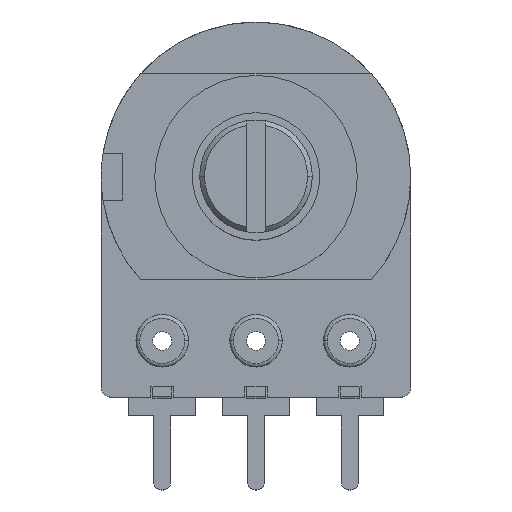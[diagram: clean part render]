
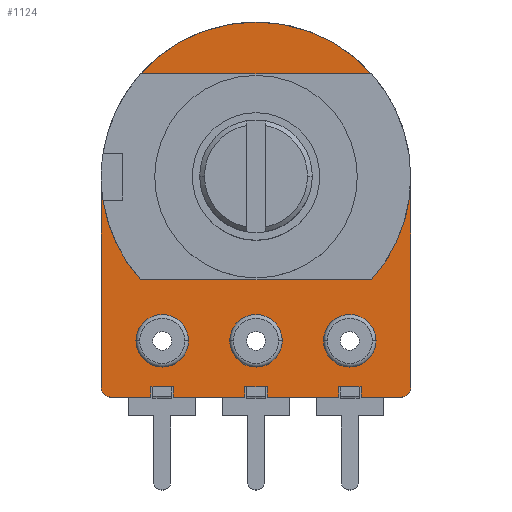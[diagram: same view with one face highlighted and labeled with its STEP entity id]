
A CAD part, top view. The second image highlights one B-rep face of the part: STEP entity #1124.
In plain terms, the highlighted planar face has unit normal (0, 0, 1).
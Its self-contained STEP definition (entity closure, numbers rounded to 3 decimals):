
#463=CARTESIAN_POINT('Axis2P3D Location',(7.75,-11.25,-2.1)) ;
#467=CARTESIAN_POINT('Vertex',(7.75,-11.75,-2.1)) ;
#469=CARTESIAN_POINT('Vertex',(8.25,-11.25,-2.1)) ;
#503=CARTESIAN_POINT('Line Origine',(8.25,-5.625,-2.1)) ;
#507=CARTESIAN_POINT('Vertex',(8.25,0.,-2.1)) ;
#545=CARTESIAN_POINT('Vertex',(-8.25,0.,-2.1)) ;
#548=CARTESIAN_POINT('Axis2P3D Location',(0.,0.,-2.1)) ;
#576=CARTESIAN_POINT('Vertex',(-8.25,-11.25,-2.1)) ;
#579=CARTESIAN_POINT('Line Origine',(-8.25,-5.625,-2.1)) ;
#596=CARTESIAN_POINT('Axis2P3D Location',(-5.,-8.75,-2.1)) ;
#600=CARTESIAN_POINT('Vertex',(-5.75,-8.75,-2.1)) ;
#602=CARTESIAN_POINT('Vertex',(-4.25,-8.75,-2.1)) ;
#641=CARTESIAN_POINT('Axis2P3D Location',(-5.,-8.75,-2.1)) ;
#658=CARTESIAN_POINT('Axis2P3D Location',(5.,-8.75,-2.1)) ;
#662=CARTESIAN_POINT('Vertex',(4.25,-8.75,-2.1)) ;
#664=CARTESIAN_POINT('Vertex',(5.75,-8.75,-2.1)) ;
#703=CARTESIAN_POINT('Axis2P3D Location',(5.,-8.75,-2.1)) ;
#733=CARTESIAN_POINT('Vertex',(0.75,-8.75,-2.1)) ;
#736=CARTESIAN_POINT('Axis2P3D Location',(0.,-8.75,-2.1)) ;
#740=CARTESIAN_POINT('Vertex',(-0.75,-8.75,-2.1)) ;
#760=CARTESIAN_POINT('Axis2P3D Location',(0.,-8.75,-2.1)) ;
#782=CARTESIAN_POINT('Axis2P3D Location',(-7.75,-11.25,-2.1)) ;
#786=CARTESIAN_POINT('Vertex',(-7.75,-11.75,-2.1)) ;
#819=CARTESIAN_POINT('Vertex',(-4.4,-11.75,-2.1)) ;
#833=CARTESIAN_POINT('Vertex',(-0.6,-11.75,-2.1)) ;
#836=CARTESIAN_POINT('Line Origine',(-2.5,-11.75,-2.1)) ;
#854=CARTESIAN_POINT('Vertex',(-5.6,-11.75,-2.1)) ;
#857=CARTESIAN_POINT('Line Origine',(-6.675,-11.75,-2.1)) ;
#887=CARTESIAN_POINT('Vertex',(4.4,-11.75,-2.1)) ;
#890=CARTESIAN_POINT('Line Origine',(2.5,-11.75,-2.1)) ;
#894=CARTESIAN_POINT('Vertex',(0.6,-11.75,-2.1)) ;
#915=CARTESIAN_POINT('Vertex',(5.6,-11.75,-2.1)) ;
#923=CARTESIAN_POINT('Line Origine',(6.675,-11.75,-2.1)) ;
#1030=CARTESIAN_POINT('Axis2P3D Location',(0.,0.,-2.1)) ;
#1035=CARTESIAN_POINT('Line Origine',(-0.6,-11.475,-2.1)) ;
#1039=CARTESIAN_POINT('Vertex',(-0.6,-11.2,-2.1)) ;
#1042=CARTESIAN_POINT('Line Origine',(0.,-11.2,-2.1)) ;
#1046=CARTESIAN_POINT('Vertex',(0.6,-11.2,-2.1)) ;
#1049=CARTESIAN_POINT('Line Origine',(0.6,-11.475,-2.1)) ;
#1054=CARTESIAN_POINT('Line Origine',(4.4,-11.475,-2.1)) ;
#1058=CARTESIAN_POINT('Vertex',(4.4,-11.2,-2.1)) ;
#1061=CARTESIAN_POINT('Line Origine',(5.,-11.2,-2.1)) ;
#1065=CARTESIAN_POINT('Vertex',(5.6,-11.2,-2.1)) ;
#1068=CARTESIAN_POINT('Line Origine',(5.6,-11.475,-2.1)) ;
#1073=CARTESIAN_POINT('Line Origine',(-5.6,-11.475,-2.1)) ;
#1077=CARTESIAN_POINT('Vertex',(-5.6,-11.2,-2.1)) ;
#1080=CARTESIAN_POINT('Line Origine',(-5.,-11.2,-2.1)) ;
#1084=CARTESIAN_POINT('Vertex',(-4.4,-11.2,-2.1)) ;
#1087=CARTESIAN_POINT('Line Origine',(-4.4,-11.475,-2.1)) ;
#464=DIRECTION('Axis2P3D Direction',(0.,0.,-1.)) ;
#504=DIRECTION('Vector Direction',(0.,1.,0.)) ;
#549=DIRECTION('Axis2P3D Direction',(0.,0.,-1.)) ;
#580=DIRECTION('Vector Direction',(0.,-1.,0.)) ;
#597=DIRECTION('Axis2P3D Direction',(0.,0.,-1.)) ;
#642=DIRECTION('Axis2P3D Direction',(0.,0.,-1.)) ;
#659=DIRECTION('Axis2P3D Direction',(0.,0.,-1.)) ;
#704=DIRECTION('Axis2P3D Direction',(0.,0.,-1.)) ;
#737=DIRECTION('Axis2P3D Direction',(0.,0.,-1.)) ;
#761=DIRECTION('Axis2P3D Direction',(0.,0.,-1.)) ;
#783=DIRECTION('Axis2P3D Direction',(0.,0.,-1.)) ;
#837=DIRECTION('Vector Direction',(1.,0.,0.)) ;
#858=DIRECTION('Vector Direction',(1.,0.,0.)) ;
#891=DIRECTION('Vector Direction',(1.,0.,0.)) ;
#924=DIRECTION('Vector Direction',(1.,0.,0.)) ;
#1031=DIRECTION('Axis2P3D Direction',(0.,0.,1.)) ;
#1032=DIRECTION('Axis2P3D XDirection',(1.,0.,0.)) ;
#1036=DIRECTION('Vector Direction',(0.,-1.,0.)) ;
#1043=DIRECTION('Vector Direction',(1.,0.,0.)) ;
#1050=DIRECTION('Vector Direction',(0.,-1.,0.)) ;
#1055=DIRECTION('Vector Direction',(0.,-1.,0.)) ;
#1062=DIRECTION('Vector Direction',(1.,0.,0.)) ;
#1069=DIRECTION('Vector Direction',(0.,-1.,0.)) ;
#1074=DIRECTION('Vector Direction',(0.,-1.,0.)) ;
#1081=DIRECTION('Vector Direction',(1.,0.,0.)) ;
#1088=DIRECTION('Vector Direction',(0.,-1.,0.)) ;
#465=AXIS2_PLACEMENT_3D('Circle Axis2P3D',#463,#464,$) ;
#550=AXIS2_PLACEMENT_3D('Circle Axis2P3D',#548,#549,$) ;
#598=AXIS2_PLACEMENT_3D('Circle Axis2P3D',#596,#597,$) ;
#643=AXIS2_PLACEMENT_3D('Circle Axis2P3D',#641,#642,$) ;
#660=AXIS2_PLACEMENT_3D('Circle Axis2P3D',#658,#659,$) ;
#705=AXIS2_PLACEMENT_3D('Circle Axis2P3D',#703,#704,$) ;
#738=AXIS2_PLACEMENT_3D('Circle Axis2P3D',#736,#737,$) ;
#762=AXIS2_PLACEMENT_3D('Circle Axis2P3D',#760,#761,$) ;
#784=AXIS2_PLACEMENT_3D('Circle Axis2P3D',#782,#783,$) ;
#1033=AXIS2_PLACEMENT_3D('Plane Axis2P3D',#1030,#1031,#1032) ;
#1093=ORIENTED_EDGE('',*,*,#840,.T.) ;
#1094=ORIENTED_EDGE('',*,*,#1041,.F.) ;
#1095=ORIENTED_EDGE('',*,*,#1048,.T.) ;
#1096=ORIENTED_EDGE('',*,*,#1053,.T.) ;
#1097=ORIENTED_EDGE('',*,*,#896,.T.) ;
#1098=ORIENTED_EDGE('',*,*,#1060,.F.) ;
#1099=ORIENTED_EDGE('',*,*,#1067,.T.) ;
#1100=ORIENTED_EDGE('',*,*,#1072,.T.) ;
#1101=ORIENTED_EDGE('',*,*,#927,.T.) ;
#1102=ORIENTED_EDGE('',*,*,#471,.T.) ;
#1103=ORIENTED_EDGE('',*,*,#509,.T.) ;
#1104=ORIENTED_EDGE('',*,*,#552,.T.) ;
#1105=ORIENTED_EDGE('',*,*,#583,.T.) ;
#1106=ORIENTED_EDGE('',*,*,#788,.T.) ;
#1107=ORIENTED_EDGE('',*,*,#861,.T.) ;
#1108=ORIENTED_EDGE('',*,*,#1079,.F.) ;
#1109=ORIENTED_EDGE('',*,*,#1086,.T.) ;
#1110=ORIENTED_EDGE('',*,*,#1091,.T.) ;
#1113=ORIENTED_EDGE('',*,*,#666,.T.) ;
#1114=ORIENTED_EDGE('',*,*,#707,.F.) ;
#1117=ORIENTED_EDGE('',*,*,#742,.T.) ;
#1118=ORIENTED_EDGE('',*,*,#764,.F.) ;
#1121=ORIENTED_EDGE('',*,*,#645,.T.) ;
#1122=ORIENTED_EDGE('',*,*,#604,.F.) ;
#1115=FACE_BOUND('',#1112,.T.) ;
#1119=FACE_BOUND('',#1116,.T.) ;
#1123=FACE_BOUND('',#1120,.T.) ;
#505=VECTOR('Line Direction',#504,1.) ;
#581=VECTOR('Line Direction',#580,1.) ;
#838=VECTOR('Line Direction',#837,1.) ;
#859=VECTOR('Line Direction',#858,1.) ;
#892=VECTOR('Line Direction',#891,1.) ;
#925=VECTOR('Line Direction',#924,1.) ;
#1037=VECTOR('Line Direction',#1036,1.) ;
#1044=VECTOR('Line Direction',#1043,1.) ;
#1051=VECTOR('Line Direction',#1050,1.) ;
#1056=VECTOR('Line Direction',#1055,1.) ;
#1063=VECTOR('Line Direction',#1062,1.) ;
#1070=VECTOR('Line Direction',#1069,1.) ;
#1075=VECTOR('Line Direction',#1074,1.) ;
#1082=VECTOR('Line Direction',#1081,1.) ;
#1089=VECTOR('Line Direction',#1088,1.) ;
#1124=ADVANCED_FACE('Platte',(#1111,#1115,#1119,#1123),#1034,.T.) ;
#466=CIRCLE('generated circle',#465,0.5) ;
#551=CIRCLE('generated circle',#550,8.25) ;
#599=CIRCLE('generated circle',#598,0.75) ;
#644=CIRCLE('generated circle',#643,0.75) ;
#661=CIRCLE('generated circle',#660,0.75) ;
#706=CIRCLE('generated circle',#705,0.75) ;
#739=CIRCLE('generated circle',#738,0.75) ;
#763=CIRCLE('generated circle',#762,0.75) ;
#785=CIRCLE('generated circle',#784,0.5) ;
#471=EDGE_CURVE('',#468,#470,#466,.F.) ;
#509=EDGE_CURVE('',#470,#508,#506,.T.) ;
#552=EDGE_CURVE('',#508,#546,#551,.F.) ;
#583=EDGE_CURVE('',#546,#577,#582,.T.) ;
#604=EDGE_CURVE('',#601,#603,#599,.F.) ;
#645=EDGE_CURVE('',#601,#603,#644,.T.) ;
#666=EDGE_CURVE('',#663,#665,#661,.T.) ;
#707=EDGE_CURVE('',#663,#665,#706,.F.) ;
#742=EDGE_CURVE('',#741,#734,#739,.T.) ;
#764=EDGE_CURVE('',#741,#734,#763,.F.) ;
#788=EDGE_CURVE('',#577,#787,#785,.F.) ;
#840=EDGE_CURVE('',#820,#834,#839,.T.) ;
#861=EDGE_CURVE('',#787,#855,#860,.T.) ;
#896=EDGE_CURVE('',#895,#888,#893,.T.) ;
#927=EDGE_CURVE('',#916,#468,#926,.T.) ;
#1041=EDGE_CURVE('',#1040,#834,#1038,.T.) ;
#1048=EDGE_CURVE('',#1040,#1047,#1045,.T.) ;
#1053=EDGE_CURVE('',#1047,#895,#1052,.T.) ;
#1060=EDGE_CURVE('',#1059,#888,#1057,.T.) ;
#1067=EDGE_CURVE('',#1059,#1066,#1064,.T.) ;
#1072=EDGE_CURVE('',#1066,#916,#1071,.T.) ;
#1079=EDGE_CURVE('',#1078,#855,#1076,.T.) ;
#1086=EDGE_CURVE('',#1078,#1085,#1083,.T.) ;
#1091=EDGE_CURVE('',#1085,#820,#1090,.T.) ;
#1092=EDGE_LOOP('',(#1093,#1094,#1095,#1096,#1097,#1098,#1099,#1100,#1101,#1102,#1103,#1104,#1105,#1106,#1107,#1108,#1109,#1110)) ;
#1112=EDGE_LOOP('',(#1113,#1114)) ;
#1116=EDGE_LOOP('',(#1117,#1118)) ;
#1120=EDGE_LOOP('',(#1121,#1122)) ;
#1111=FACE_OUTER_BOUND('',#1092,.T.) ;
#506=LINE('Line',#503,#505) ;
#582=LINE('Line',#579,#581) ;
#839=LINE('Line',#836,#838) ;
#860=LINE('Line',#857,#859) ;
#893=LINE('Line',#890,#892) ;
#926=LINE('Line',#923,#925) ;
#1038=LINE('Line',#1035,#1037) ;
#1045=LINE('Line',#1042,#1044) ;
#1052=LINE('Line',#1049,#1051) ;
#1057=LINE('Line',#1054,#1056) ;
#1064=LINE('Line',#1061,#1063) ;
#1071=LINE('Line',#1068,#1070) ;
#1076=LINE('Line',#1073,#1075) ;
#1083=LINE('Line',#1080,#1082) ;
#1090=LINE('Line',#1087,#1089) ;
#1034=PLANE('Plane',#1033) ;
#468=VERTEX_POINT('',#467) ;
#470=VERTEX_POINT('',#469) ;
#508=VERTEX_POINT('',#507) ;
#546=VERTEX_POINT('',#545) ;
#577=VERTEX_POINT('',#576) ;
#601=VERTEX_POINT('',#600) ;
#603=VERTEX_POINT('',#602) ;
#663=VERTEX_POINT('',#662) ;
#665=VERTEX_POINT('',#664) ;
#734=VERTEX_POINT('',#733) ;
#741=VERTEX_POINT('',#740) ;
#787=VERTEX_POINT('',#786) ;
#820=VERTEX_POINT('',#819) ;
#834=VERTEX_POINT('',#833) ;
#855=VERTEX_POINT('',#854) ;
#888=VERTEX_POINT('',#887) ;
#895=VERTEX_POINT('',#894) ;
#916=VERTEX_POINT('',#915) ;
#1040=VERTEX_POINT('',#1039) ;
#1047=VERTEX_POINT('',#1046) ;
#1059=VERTEX_POINT('',#1058) ;
#1066=VERTEX_POINT('',#1065) ;
#1078=VERTEX_POINT('',#1077) ;
#1085=VERTEX_POINT('',#1084) ;
